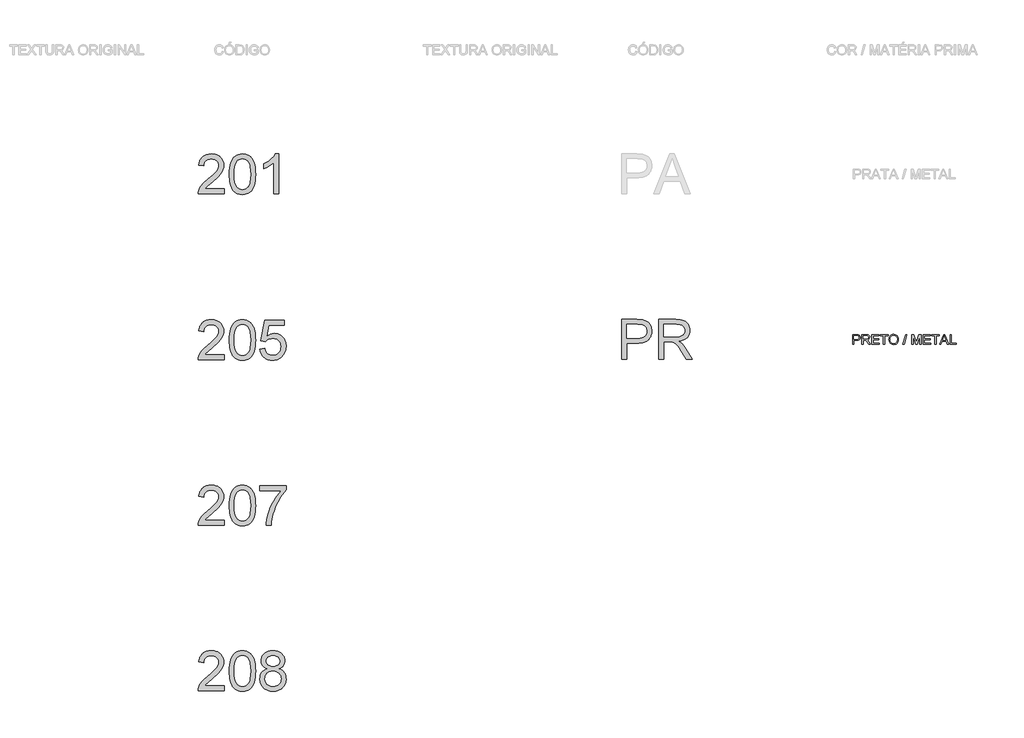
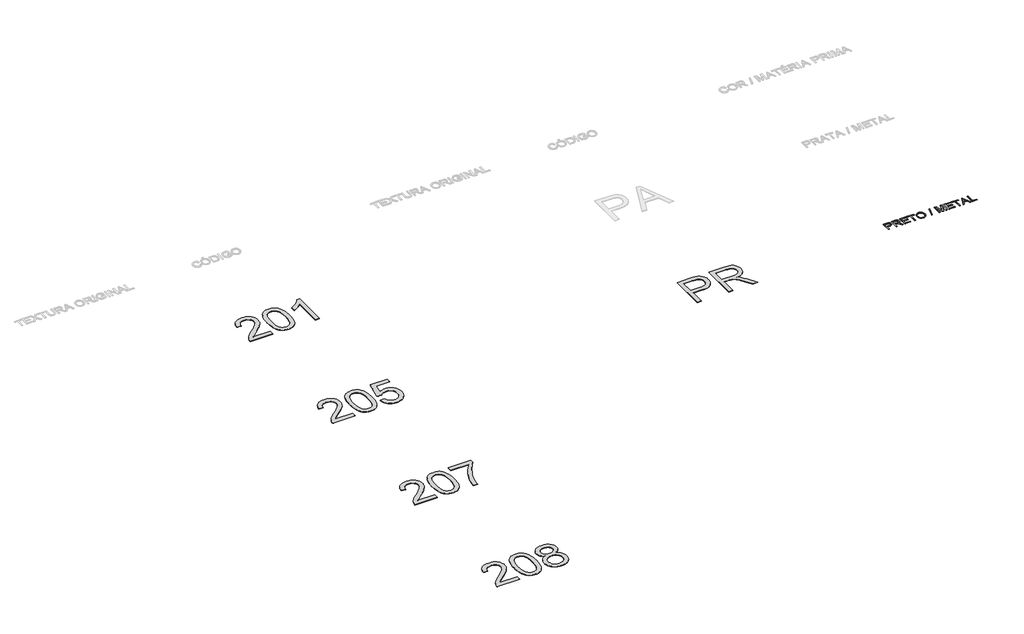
# One storey, part 15 of 19: 6 proxies.
"""IFC4 building model written with IfcOpenShell, lengths in millimetres."""

from ifc_helpers import new_model, si_unit, origin, origin_with_axes, place, context, project, spatial, polyline, outline, extrude, element, save

model = new_model("IFC4")

# Units and contexts
model_context = context("Model", 3, world=origin())
ifc_project = project(units=[si_unit("LENGTHUNIT", "METRE", prefix="MILLI")], contexts=[model_context])

# Site, building, storey
site = spatial("IfcSite", under=ifc_project)
building = spatial("IfcBuilding", under=site)
storey = spatial("IfcBuildingStorey", under=building, Name="Marelli - Linha ACTIVE - Planta Baixa", Elevation=0.0)

# Proxies
placement = place(None, origin())
element("IfcBuildingElementProxy", 1, Name="1200mm Arial", ObjectType="1200mm Arial", at=placement, inside=storey, context=model_context, shape_type="SweptSolid", body=[
    extrude(outline(polyline([(12375.3752953, -113980.5663201), (12375.3752953, -112775.0905983), (12822.1311902, -112775.0905983), (12926.1682184, -112777.9600778), (13002.246215, -112786.5685165), (13044.1755654, -112795.6092166), (13082.5548546, -112808.0160368), (13117.3840825, -112823.7889774), (13148.6632491, -112842.9280382), (13176.7234483, -112865.8286924), (13201.8957738, -112892.8864131), (13224.1802257, -112924.1012004), (13243.5768039, -112959.4730543), (13259.2853651, -112997.8339493), (13270.5057659, -113038.0158602), (13277.2380064, -113080.018787), (13279.4820866, -113123.8427297), (13273.4212307, -113197.842193), (13265.8451609, -113232.6208372), (13255.2386631, -113265.9187562), (13241.6017374, -113297.7359503), (13224.9343838, -113328.0724193), (13205.2366022, -113356.9281633), (13182.5083927, -113384.3031823), (13155.8254517, -113409.2731727), (13124.2634758, -113430.9138311), (13087.8224649, -113449.2251574), (13046.5024191, -113464.2071516), (13000.3033382, -113475.8598138), (12949.2252225, -113484.183144), (12893.2680718, -113489.1771421), (12832.4318861, -113490.8418081), (12526.0597605, -113490.8418081), (12526.0597605, -113980.5663201), (12375.3752953, -113980.5663201)]), holes=[polyline([(12526.0597605, -113340.1573429), (12841.2610539, -113340.1573429), (12913.733807, -113336.6992521), (12974.8757946, -113326.3249798), (13024.6870167, -113309.0345261), (13063.1674734, -113284.8278908), (13091.8806632, -113254.3488675), (13112.3900844, -113218.2412497), (13124.6957371, -113176.5050373), (13128.7976214, -113129.1402304), (13126.3787973, -113093.9707117), (13119.1223249, -113061.4499433), (13107.0282043, -113031.5779253), (13090.0964355, -113004.3546577), (13069.2283293, -112980.6630572), (13045.3251967, -112961.3860406), (13018.3870376, -112946.523608), (12988.413852, -112936.0757594), (12930.2884968, -112928.3502375), (12837.7293868, -112925.7750635), (12526.0597605, -112925.7750635), (12526.0597605, -113340.1573429)])]), origin_with_axes(), (0.0, 0.0, 1.0), 10.0),
    extrude(outline(polyline([(13486.6732263, -113980.5663201), (13486.6732263, -112775.0905983), (14006.1226035, -112775.0905983), (14080.6830868, -112777.1231463), (14145.7338206, -112783.2207904), (14201.2748049, -112793.3835305), (14247.3060395, -112807.6113666), (14286.5038661, -112826.9987478), (14321.5446261, -112852.6401229), (14352.4283196, -112884.5354918), (14379.1549466, -112922.6848547), (14400.7220286, -112965.0372694), (14416.1270871, -113009.5417938), (14425.3701222, -113056.1984278), (14428.4511339, -113105.0071715), (14423.3467713, -113166.9217113), (14408.0336832, -113223.7594796), (14382.5118698, -113275.5204763), (14346.781331, -113322.2047015), (14324.9728265, -113343.2705443), (14300.3822144, -113362.3222331), (14242.8546674, -113394.383149), (14174.19869, -113418.3874491), (14094.4142823, -113434.3351336), (14144.0783517, -113466.7823256), (14180.0572108, -113498.7880592), (14241.7878096, -113571.9965762), (14302.1940332, -113653.8871084), (14503.2047554, -113980.5663201), (14328.0929257, -113980.5663201), (14171.2280429, -113730.7008689), (14108.4673745, -113635.3458558), (14057.9203884, -113565.3011239), (14015.7978999, -113517.0717943), (13978.3107246, -113487.1629881), (13942.8101121, -113469.615017), (13906.647312, -113458.4681925), (13871.4042168, -113454.495067), (13819.2385499, -113453.1706918), (13637.3576915, -113453.1706918), (13637.3576915, -113980.5663201), (13486.6732263, -113980.5663201)]), holes=[polyline([(13637.3576915, -113302.4862266), (13974.6319047, -113302.4862266), (14071.495234, -113297.1519376), (14111.7875095, -113290.4840765), (14146.6535256, -113281.1490708), (14176.8750315, -113268.8802063), (14203.2337765, -113253.4107684), (14225.7297605, -113234.7407571), (14244.3629836, -113212.8701725), (14258.9770958, -113188.8750694), (14269.4157474, -113163.8315026), (14275.6789384, -113137.7394721), (14277.7666687, -113110.5989779), (14273.7843461, -113072.0633389), (14261.8373783, -113037.0961552), (14241.9257653, -113005.697427), (14214.0495071, -112977.867154), (14177.5648103, -112955.0768644), (14131.8278812, -112938.7980861), (14076.83872, -112929.0308192), (14012.5973266, -112925.7750635), (13637.3576915, -112925.7750635), (13637.3576915, -113302.4862266)])]), origin_with_axes(), (0.0, 0.0, 1.0), 10.0),
])
element("IfcBuildingElementProxy", 2, Name="1200mm Arial", ObjectType="1200mm Arial", at=placement, inside=storey, context=model_context, shape_type="SweptSolid", body=[
    extrude(outline(polyline([(365.0998072, -108829.8818548), (365.0998072, -108980.5663201), (-425.9936352, -108980.5663201), (-422.6826972, -108927.5177364), (-409.8068274, -108876.6764446), (-393.3808963, -108835.7771638), (-372.6507459, -108795.4848883), (-347.6163761, -108755.7996181), (-318.277787, -108716.7213531), (-282.869145, -108676.7233832), (-239.6246164, -108634.278998), (-129.6278999, -108542.0509818), (-40.1957869, -108465.1084625), (32.975942, -108397.6205105), (89.8872866, -108339.5871258), (130.5382471, -108291.0083083), (158.9939194, -108247.4510801), (179.3193997, -108204.482463), (191.5146878, -108162.1024572), (195.5797839, -108120.3110625), (191.7446141, -108080.9936743), (180.2391047, -108044.8584653), (161.0632557, -108011.9054356), (134.2170671, -107982.1345852), (101.1904609, -107957.4772944), (63.4733594, -107939.8649439), (21.0657624, -107929.2975336), (-26.03233, -107925.7750635), (-75.6504141, -107929.2147602), (-120.0261798, -107939.5338501), (-159.159627, -107956.7323334), (-193.0507558, -107980.81021), (-220.4671615, -108010.9581395), (-240.1764394, -108046.3667815), (-252.1785895, -108087.0361361), (-256.4736118, -108132.9662032), (-407.158077, -108114.130645), (-394.1994338, -108036.3419971), (-383.7400888, -108001.1310917), (-370.6273949, -107968.3757985), (-354.8613522, -107938.0761177), (-336.4419605, -107910.2320492), (-315.36922, -107884.843593), (-291.6431306, -107861.9107491), (-265.5212096, -107841.5622763), (-237.2609746, -107823.9269331), (-206.8624255, -107809.0047197), (-174.3255623, -107796.795636), (-102.8368936, -107780.5168577), (-22.7949685, -107775.0905983), (57.9643265, -107781.123863), (95.0123427, -107788.6654439), (129.8392713, -107799.2236572), (162.4451124, -107812.7985028), (192.8298659, -107829.3899808), (220.9935319, -107848.9980911), (246.9361104, -107871.6228338), (270.2161429, -107896.4824596), (290.3921711, -107922.7952193), (307.4641949, -107950.5611129), (321.4322144, -107979.7801404), (332.2962296, -108010.4523017), (340.0562404, -108042.577597), (344.7122469, -108076.1560261), (346.2642491, -108111.1875891), (344.590386, -108147.3779803), (339.5687968, -108183.2556719), (331.1994814, -108218.8206638), (319.4824398, -108254.072956), (303.8750462, -108289.6287508), (283.8346745, -108326.1042507), (230.454997, -108401.8143653), (193.6208122, -108443.798898), (145.3638915, -108492.2029715), (14.5818422, -108608.269741), (-158.7641539, -108753.2152471), (-196.3616938, -108791.4381863), (-226.7487466, -108829.8818548), (365.0998072, -108829.8818548)])), origin_with_axes(), (0.0, 0.0, 1.0), 10.0),
    extrude(outline(polyline([(515.7842725, -108387.5405438), (518.5525845, -108286.1798571), (526.8575205, -108194.5864374), (540.6990806, -108112.7602846), (560.0772647, -108040.7013988), (584.9092994, -107977.8211688), (615.1124112, -107923.5309833), (650.6866001, -107877.8308425), (691.6318662, -107840.7207462), (738.0861651, -107812.0075565), (790.1874527, -107791.4981353), (847.9357289, -107779.1924825), (911.3309937, -107775.0905983), (958.971712, -107777.5186194), (1004.1844093, -107784.8026829), (1046.9690853, -107796.9427888), (1087.3257402, -107813.938937), (1124.2794866, -107835.5060189), (1156.8554373, -107861.3589261), (1185.0535922, -107891.4976586), (1208.8739514, -107925.9222163), (1229.5121313, -107964.4946435), (1248.1637485, -108007.0769844), (1279.5072944, -108104.2714076), (1291.4818534, -108161.4310726), (1300.0351098, -108227.6958169), (1305.1670636, -108303.0656407), (1306.8777149, -108387.5405438), (1304.136994, -108488.2574371), (1295.9148314, -108579.3910043), (1282.2112271, -108660.9412456), (1263.0261811, -108732.9081609), (1238.3872844, -108795.8159821), (1208.3221284, -108850.188941), (1172.8307129, -108896.0270376), (1131.913038, -108933.3302719), (1085.4035567, -108962.2365997), (1033.1367223, -108982.8839766), (975.1125346, -108995.2724028), (911.3309937, -108999.4018782), (868.6566822, -108997.6084535), (828.3368156, -108992.2281793), (790.3713937, -108983.2610557), (754.7604165, -108970.7070826), (721.5038842, -108954.5662601), (690.6017966, -108934.8385881), (662.0541537, -108911.5240666), (635.8609557, -108884.6226957), (607.7179831, -108842.0265592), (583.3274068, -108793.8478134), (562.6892268, -108740.0864583), (545.8034433, -108680.742494), (532.670056, -108615.8159204), (523.2890652, -108545.3067375), (517.6604706, -108469.2149453), (515.7842725, -108387.5405438)]), holes=[polyline([(666.4687377, -108387.2462382), (670.8833216, -108518.2398197), (684.1270735, -108624.2726077), (694.0598873, -108667.9287043), (706.1999932, -108705.3446024), (720.547391, -108736.5203023), (737.1020808, -108761.4558037), (774.4788915, -108799.6327578), (815.9759805, -108826.9020107), (861.5933479, -108843.2635624), (911.3309937, -108848.717413), (961.0686394, -108843.2451683), (1006.6860068, -108826.8284343), (1048.1830959, -108799.4672109), (1085.5599066, -108761.1614981), (1102.1145964, -108736.1662158), (1116.4619942, -108704.9583263), (1128.6021, -108667.5378296), (1138.5349139, -108623.9047257), (1151.7786657, -108518.0006964), (1156.1932497, -108387.2462382), (1151.9258185, -108259.7199446), (1139.1235251, -108155.5541577), (1129.521805, -108112.2314542), (1117.7863694, -108074.7488774), (1103.9172181, -108043.1064273), (1087.9143514, -108017.3041039), (1051.16294, -107977.2601487), (1009.1876044, -107948.6573236), (961.9883444, -107931.4956285), (909.5651601, -107925.7750635), (860.0850317, -107930.8150468), (815.2402165, -107945.9349968), (775.0307145, -107971.1349135), (739.4565255, -108006.4147968), (722.3500128, -108034.9624397), (707.5243683, -108068.954736), (694.9795923, -108108.3916859), (684.7156846, -108153.2732893), (671.0304744, -108259.3704567), (666.4687377, -108387.2462382)])]), origin_with_axes(), (0.0, 0.0, 1.0), 10.0),
    extrude(outline(polyline([(2003.7933665, -108980.5663201), (1853.1089013, -108980.5663201), (1853.1089013, -108041.1428572), (1790.2010802, -108092.0209371), (1710.3706872, -108142.8254407), (1626.5671687, -108187.2287975), (1551.7399709, -108218.9034373), (1551.7399709, -108076.4595287), (1612.8911555, -108045.7965644), (1670.0876087, -108012.0801796), (1723.3293305, -107975.3103741), (1772.6163208, -107935.4871482), (1816.4770517, -107894.4499116), (1853.4399951, -107854.0380744), (1883.5051512, -107814.2516367), (1906.6725198, -107775.0905983), (2003.7933665, -107775.0905983), (2003.7933665, -108980.5663201)])), origin_with_axes(), (0.0, 0.0, 1.0), 10.0),
])
element("IfcBuildingElementProxy", 3, Name="1200mm Arial", ObjectType="1200mm Arial", at=placement, inside=storey, context=model_context, shape_type="SweptSolid", body=[
    extrude(outline(polyline([(365.0998072, -113838.133975), (365.0998072, -113988.8184403), (-425.9936352, -113988.8184403), (-422.6826972, -113935.7698566), (-409.8068274, -113884.9285648), (-393.3808963, -113844.029284), (-372.6507459, -113803.7370085), (-347.6163761, -113764.0517383), (-318.277787, -113724.9734733), (-282.869145, -113684.9755034), (-239.6246164, -113642.5311182), (-129.6278999, -113550.303102), (-40.1957869, -113473.3605827), (32.975942, -113405.8726307), (89.8872866, -113347.839246), (130.5382471, -113299.2604285), (158.9939194, -113255.7032003), (179.3193997, -113212.7345832), (191.5146878, -113170.3545774), (195.5797839, -113128.5631827), (191.7446141, -113089.2457945), (180.2391047, -113053.1105855), (161.0632557, -113020.1575558), (134.2170671, -112990.3867054), (101.1904609, -112965.7294146), (63.4733594, -112948.1170641), (21.0657624, -112937.5496538), (-26.03233, -112934.0271837), (-75.6504141, -112937.4668804), (-120.0261798, -112947.7859703), (-159.159627, -112964.9844536), (-193.0507558, -112989.0623302), (-220.4671615, -113019.2102597), (-240.1764394, -113054.6189017), (-252.1785895, -113095.2882563), (-256.4736118, -113141.2183234), (-407.158077, -113122.3827652), (-394.1994338, -113044.5941173), (-383.7400888, -113009.3832119), (-370.6273949, -112976.6279187), (-354.8613522, -112946.3282379), (-336.4419605, -112918.4841694), (-315.36922, -112893.0957132), (-291.6431306, -112870.1628693), (-265.5212096, -112849.8143965), (-237.2609746, -112832.1790533), (-206.8624255, -112817.2568399), (-174.3255623, -112805.0477562), (-102.8368936, -112788.7689779), (-22.7949685, -112783.3427185), (57.9643265, -112789.3759832), (95.0123427, -112796.9175641), (129.8392713, -112807.4757774), (162.4451124, -112821.050623), (192.8298659, -112837.642101), (220.9935319, -112857.2502113), (246.9361104, -112879.874954), (270.2161429, -112904.7345798), (290.3921711, -112931.0473395), (307.4641949, -112958.8132331), (321.4322144, -112988.0322606), (332.2962296, -113018.7044219), (340.0562404, -113050.8297172), (344.7122469, -113084.4081463), (346.2642491, -113119.4397093), (344.590386, -113155.6301005), (339.5687968, -113191.5077921), (331.1994814, -113227.072784), (319.4824398, -113262.3250762), (303.8750462, -113297.880871), (283.8346745, -113334.3563708), (230.454997, -113410.0664855), (193.6208122, -113452.0510182), (145.3638915, -113500.4550917), (14.5818422, -113616.5218611), (-158.7641539, -113761.4673672), (-196.3616938, -113799.6903065), (-226.7487466, -113838.133975), (365.0998072, -113838.133975)])), origin_with_axes(), (0.0, 0.0, 1.0), 10.0),
    extrude(outline(polyline([(515.7842725, -113395.792664), (518.5525845, -113294.4319773), (526.8575205, -113202.8385576), (540.6990806, -113121.0124048), (560.0772647, -113048.953519), (584.9092994, -112986.073289), (615.1124112, -112931.7831035), (650.6866001, -112886.0829627), (691.6318662, -112848.9728664), (738.0861651, -112820.2596767), (790.1874527, -112799.7502555), (847.9357289, -112787.4446027), (911.3309937, -112783.3427185), (958.971712, -112785.7707396), (1004.1844093, -112793.0548031), (1046.9690853, -112805.194909), (1087.3257402, -112822.1910572), (1124.2794866, -112843.7581391), (1156.8554373, -112869.6110463), (1185.0535922, -112899.7497788), (1208.8739514, -112934.1743365), (1229.5121313, -112972.7467637), (1248.1637485, -113015.3291046), (1279.5072944, -113112.5235278), (1291.4818534, -113169.6831928), (1300.0351098, -113235.9479371), (1305.1670636, -113311.3177609), (1306.8777149, -113395.792664), (1304.136994, -113496.5095573), (1295.9148314, -113587.6431245), (1282.2112271, -113669.1933658), (1263.0261811, -113741.1602811), (1238.3872844, -113804.0681023), (1208.3221284, -113858.4410612), (1172.8307129, -113904.2791578), (1131.913038, -113941.5823921), (1085.4035567, -113970.4887199), (1033.1367223, -113991.1360968), (975.1125346, -114003.524523), (911.3309937, -114007.6539984), (868.6566822, -114005.8605737), (828.3368156, -114000.4802995), (790.3713937, -113991.5131759), (754.7604165, -113978.9592028), (721.5038842, -113962.8183803), (690.6017966, -113943.0907083), (662.0541537, -113919.7761868), (635.8609557, -113892.8748159), (607.7179831, -113850.2786794), (583.3274068, -113802.0999336), (562.6892268, -113748.3385785), (545.8034433, -113688.9946142), (532.670056, -113624.0680406), (523.2890652, -113553.5588577), (517.6604706, -113477.4670655), (515.7842725, -113395.792664)]), holes=[polyline([(666.4687377, -113395.4983584), (670.8833216, -113526.4919399), (684.1270735, -113632.5247279), (694.0598873, -113676.1808245), (706.1999932, -113713.5967226), (720.547391, -113744.7724225), (737.1020808, -113769.7079239), (774.4788915, -113807.884878), (815.9759805, -113835.1541309), (861.5933479, -113851.5156826), (911.3309937, -113856.9695332), (961.0686394, -113851.4972885), (1006.6860068, -113835.0805545), (1048.1830959, -113807.7193311), (1085.5599066, -113769.4136183), (1102.1145964, -113744.418336), (1116.4619942, -113713.2104465), (1128.6021, -113675.7899498), (1138.5349139, -113632.1568459), (1151.7786657, -113526.2528166), (1156.1932497, -113395.4983584), (1151.9258185, -113267.9720648), (1139.1235251, -113163.8062779), (1129.521805, -113120.4835744), (1117.7863694, -113083.0009976), (1103.9172181, -113051.3585475), (1087.9143514, -113025.5562241), (1051.16294, -112985.5122689), (1009.1876044, -112956.9094438), (961.9883444, -112939.7477487), (909.5651601, -112934.0271837), (860.0850317, -112939.067167), (815.2402165, -112954.187117), (775.0307145, -112979.3870337), (739.4565255, -113014.666917), (722.3500128, -113043.2145599), (707.5243683, -113077.2068562), (694.9795923, -113116.6438061), (684.7156846, -113161.5254095), (671.0304744, -113267.6225769), (666.4687377, -113395.4983584)])]), origin_with_axes(), (0.0, 0.0, 1.0), 10.0),
    extrude(outline(polyline([(1438.726622, -113668.6139517), (1589.4110872, -113649.7783935), (1600.6682762, -113698.2192552), (1617.0758132, -113740.2405761), (1638.6336981, -113775.8423562), (1665.341931, -113805.0245955), (1697.1453295, -113827.7505057), (1733.9887113, -113843.9832988), (1775.8720764, -113853.7229746), (1822.7954249, -113856.9695332), (1880.1850162, -113852.4537817), (1930.8055787, -113838.9065272), (1974.6571125, -113816.3277698), (2011.7396176, -113784.7175093), (2041.2253596, -113745.6392444), (2062.2866038, -113700.6564734), (2074.9233503, -113649.7691965), (2079.1355992, -113592.9774135), (2075.1900648, -113539.3034304), (2063.3534616, -113491.5891356), (2043.6257896, -113449.8345291), (2016.0070488, -113414.039611), (1980.4052687, -113385.3264213), (1936.7284788, -113364.817), (1884.9766792, -113352.5113473), (1825.1498697, -113348.4094631), (1786.862551, -113350.0465379), (1752.0517173, -113354.9577626), (1720.7173683, -113363.143137), (1692.8595042, -113374.6026611), (1645.5866678, -113404.6954083), (1608.2466453, -113442.5872538), (1457.5621801, -113423.7516957), (1589.4110872, -112802.1782766), (2173.3133899, -112802.1782766), (2173.3133899, -112952.8627418), (1711.253604, -112952.8627418), (1646.8006784, -113284.8394543), (1699.9780208, -113246.7268796), (1754.4429502, -113219.503612), (1810.1954666, -113203.1696514), (1867.2355699, -113197.7249978), (1904.6744607, -113199.4126565), (1940.6188309, -113204.4756325), (1975.0686805, -113212.9139257), (2008.0240095, -113224.7275363), (2039.4848179, -113239.9164642), (2069.4511056, -113258.4807093), (2097.9228728, -113280.4202718), (2124.9001194, -113305.7351516), (2149.4907315, -113333.7033803), (2170.8025953, -113363.6029895), (2188.8357109, -113395.4339791), (2203.5900781, -113429.1963492), (2215.0656971, -113464.8900998), (2223.2625678, -113502.5152308), (2228.1806902, -113542.0717424), (2229.8200644, -113583.5596344), (2223.9155584, -113661.6241938), (2216.5349258, -113698.6147284), (2206.2020403, -113734.2440996), (2192.9169017, -113768.5123075), (2176.6795102, -113801.4193519), (2157.4898656, -113832.965233), (2135.347968, -113863.1499507), (2105.3471913, -113897.0180869), (2072.7344524, -113926.3704716), (2037.5097514, -113951.2071048), (1999.6730882, -113971.5279865), (1959.2244628, -113987.3331167), (1916.1638753, -113998.6224954), (1870.4913256, -114005.3961227), (1822.2068137, -114007.6539984), (1744.445757, -114001.8506599), (1708.3864237, -113994.5964869), (1674.2078871, -113984.4406445), (1641.9101472, -113971.383133), (1611.4932039, -113955.4239522), (1582.9570574, -113936.5631021), (1556.3017076, -113914.8005828), (1531.9640144, -113890.6422321), (1510.3808376, -113864.5938875), (1491.5521772, -113836.6555493), (1475.4780333, -113806.8272173), (1462.1584058, -113775.1088915), (1451.5932947, -113741.500572), (1438.726622, -113668.6139517)])), origin_with_axes(), (0.0, 0.0, 1.0), 10.0),
])
element("IfcBuildingElementProxy", 4, Name="1200mm Arial", ObjectType="1200mm Arial", at=placement, inside=storey, context=model_context, shape_type="SweptSolid", body=[
    extrude(outline(polyline([(365.0998072, -118838.133975), (365.0998072, -118988.8184403), (-425.9936352, -118988.8184403), (-422.6826972, -118935.7698566), (-409.8068274, -118884.9285648), (-393.3808963, -118844.029284), (-372.6507459, -118803.7370085), (-347.6163761, -118764.0517383), (-318.277787, -118724.9734733), (-282.869145, -118684.9755034), (-239.6246164, -118642.5311182), (-129.6278999, -118550.303102), (-40.1957869, -118473.3605827), (32.975942, -118405.8726307), (89.8872866, -118347.839246), (130.5382471, -118299.2604285), (158.9939194, -118255.7032003), (179.3193997, -118212.7345832), (191.5146878, -118170.3545774), (195.5797839, -118128.5631827), (191.7446141, -118089.2457945), (180.2391047, -118053.1105855), (161.0632557, -118020.1575558), (134.2170671, -117990.3867054), (101.1904609, -117965.7294146), (63.4733594, -117948.1170641), (21.0657624, -117937.5496538), (-26.03233, -117934.0271837), (-75.6504141, -117937.4668804), (-120.0261798, -117947.7859703), (-159.159627, -117964.9844536), (-193.0507558, -117989.0623302), (-220.4671615, -118019.2102597), (-240.1764394, -118054.6189017), (-252.1785895, -118095.2882563), (-256.4736118, -118141.2183234), (-407.158077, -118122.3827652), (-394.1994338, -118044.5941173), (-383.7400888, -118009.3832119), (-370.6273949, -117976.6279187), (-354.8613522, -117946.3282379), (-336.4419605, -117918.4841694), (-315.36922, -117893.0957132), (-291.6431306, -117870.1628693), (-265.5212096, -117849.8143965), (-237.2609746, -117832.1790533), (-206.8624255, -117817.2568399), (-174.3255623, -117805.0477562), (-102.8368936, -117788.7689779), (-22.7949685, -117783.3427185), (57.9643265, -117789.3759832), (95.0123427, -117796.9175641), (129.8392713, -117807.4757774), (162.4451124, -117821.050623), (192.8298659, -117837.642101), (220.9935319, -117857.2502113), (246.9361104, -117879.874954), (270.2161429, -117904.7345798), (290.3921711, -117931.0473395), (307.4641949, -117958.8132331), (321.4322144, -117988.0322606), (332.2962296, -118018.7044219), (340.0562404, -118050.8297172), (344.7122469, -118084.4081463), (346.2642491, -118119.4397093), (344.590386, -118155.6301005), (339.5687968, -118191.5077921), (331.1994814, -118227.072784), (319.4824398, -118262.3250762), (303.8750462, -118297.880871), (283.8346745, -118334.3563708), (230.454997, -118410.0664855), (193.6208122, -118452.0510182), (145.3638915, -118500.4550917), (14.5818422, -118616.5218611), (-158.7641539, -118761.4673672), (-196.3616938, -118799.6903065), (-226.7487466, -118838.133975), (365.0998072, -118838.133975)])), origin_with_axes(), (0.0, 0.0, 1.0), 10.0),
    extrude(outline(polyline([(515.7842725, -118395.792664), (518.5525845, -118294.4319773), (526.8575205, -118202.8385576), (540.6990806, -118121.0124048), (560.0772647, -118048.953519), (584.9092994, -117986.073289), (615.1124112, -117931.7831035), (650.6866001, -117886.0829627), (691.6318662, -117848.9728664), (738.0861651, -117820.2596767), (790.1874527, -117799.7502555), (847.9357289, -117787.4446027), (911.3309937, -117783.3427185), (958.971712, -117785.7707396), (1004.1844093, -117793.0548031), (1046.9690853, -117805.194909), (1087.3257402, -117822.1910572), (1124.2794866, -117843.7581391), (1156.8554373, -117869.6110463), (1185.0535922, -117899.7497788), (1208.8739514, -117934.1743365), (1229.5121313, -117972.7467637), (1248.1637485, -118015.3291046), (1279.5072944, -118112.5235278), (1291.4818534, -118169.6831928), (1300.0351098, -118235.9479371), (1305.1670636, -118311.3177609), (1306.8777149, -118395.792664), (1304.136994, -118496.5095573), (1295.9148314, -118587.6431245), (1282.2112271, -118669.1933658), (1263.0261811, -118741.1602811), (1238.3872844, -118804.0681023), (1208.3221284, -118858.4410612), (1172.8307129, -118904.2791578), (1131.913038, -118941.5823921), (1085.4035567, -118970.4887199), (1033.1367223, -118991.1360968), (975.1125346, -119003.524523), (911.3309937, -119007.6539984), (868.6566822, -119005.8605737), (828.3368156, -119000.4802995), (790.3713937, -118991.5131759), (754.7604165, -118978.9592028), (721.5038842, -118962.8183803), (690.6017966, -118943.0907083), (662.0541537, -118919.7761868), (635.8609557, -118892.8748159), (607.7179831, -118850.2786794), (583.3274068, -118802.0999336), (562.6892268, -118748.3385785), (545.8034433, -118688.9946142), (532.670056, -118624.0680406), (523.2890652, -118553.5588577), (517.6604706, -118477.4670655), (515.7842725, -118395.792664)]), holes=[polyline([(666.4687377, -118395.4983584), (670.8833216, -118526.4919399), (684.1270735, -118632.5247279), (694.0598873, -118676.1808245), (706.1999932, -118713.5967226), (720.547391, -118744.7724225), (737.1020808, -118769.7079239), (774.4788915, -118807.884878), (815.9759805, -118835.1541309), (861.5933479, -118851.5156826), (911.3309937, -118856.9695332), (961.0686394, -118851.4972885), (1006.6860068, -118835.0805545), (1048.1830959, -118807.7193311), (1085.5599066, -118769.4136183), (1102.1145964, -118744.418336), (1116.4619942, -118713.2104465), (1128.6021, -118675.7899498), (1138.5349139, -118632.1568459), (1151.7786657, -118526.2528166), (1156.1932497, -118395.4983584), (1151.9258185, -118267.9720648), (1139.1235251, -118163.8062779), (1129.521805, -118120.4835744), (1117.7863694, -118083.0009976), (1103.9172181, -118051.3585475), (1087.9143514, -118025.5562241), (1051.16294, -117985.5122689), (1009.1876044, -117956.9094438), (961.9883444, -117939.7477487), (909.5651601, -117934.0271837), (860.0850317, -117939.067167), (815.2402165, -117954.187117), (775.0307145, -117979.3870337), (739.4565255, -118014.666917), (722.3500128, -118043.2145599), (707.5243683, -118077.2068562), (694.9795923, -118116.6438061), (684.7156846, -118161.5254095), (671.0304744, -118267.6225769), (666.4687377, -118395.4983584)])]), origin_with_axes(), (0.0, 0.0, 1.0), 10.0),
    extrude(outline(polyline([(1438.726622, -117952.8627418), (1438.726622, -117802.1782766), (2229.8200644, -117802.1782766), (2229.8200644, -117924.0207934), (2173.3041929, -117990.5246611), (2117.0642329, -118066.7222194), (2061.1001843, -118152.6134682), (2005.4120473, -118248.1984076), (1953.0164542, -118349.3383651), (1906.9300372, -118451.8946683), (1867.1527965, -118555.8673172), (1833.684732, -118661.2563118), (1813.7455278, -118737.7941609), (1797.7794493, -118817.9004653), (1785.7864962, -118901.5752251), (1777.7666687, -118988.8184403), (1627.0822035, -118988.8184403), (1631.8186842, -118914.8189769), (1643.3793759, -118833.4986619), (1661.7642786, -118744.8574952), (1686.9733923, -118648.8954767), (1718.7124114, -118550.1651463), (1756.6870304, -118453.2190435), (1800.8972492, -118358.0571684), (1851.3430677, -118264.679521), (1905.7528148, -118175.8268221), (1961.8548191, -118094.2397926), (2019.6490805, -118019.9184325), (2079.1355992, -117952.8627418), (1438.726622, -117952.8627418)])), origin_with_axes(), (0.0, 0.0, 1.0), 10.0),
])
element("IfcBuildingElementProxy", 5, Name="1200mm Arial", ObjectType="1200mm Arial", at=placement, inside=storey, context=model_context, shape_type="SweptSolid", body=[
    extrude(outline(polyline([(365.0998072, -123838.133975), (365.0998072, -123988.8184403), (-425.9936352, -123988.8184403), (-422.6826972, -123935.7698566), (-409.8068274, -123884.9285648), (-393.3808963, -123844.029284), (-372.6507459, -123803.7370085), (-347.6163761, -123764.0517383), (-318.277787, -123724.9734733), (-282.869145, -123684.9755034), (-239.6246164, -123642.5311182), (-129.6278999, -123550.303102), (-40.1957869, -123473.3605827), (32.975942, -123405.8726307), (89.8872866, -123347.839246), (130.5382471, -123299.2604285), (158.9939194, -123255.7032003), (179.3193997, -123212.7345832), (191.5146878, -123170.3545774), (195.5797839, -123128.5631827), (191.7446141, -123089.2457945), (180.2391047, -123053.1105855), (161.0632557, -123020.1575558), (134.2170671, -122990.3867054), (101.1904609, -122965.7294146), (63.4733594, -122948.1170641), (21.0657624, -122937.5496538), (-26.03233, -122934.0271837), (-75.6504141, -122937.4668804), (-120.0261798, -122947.7859703), (-159.159627, -122964.9844536), (-193.0507558, -122989.0623302), (-220.4671615, -123019.2102597), (-240.1764394, -123054.6189017), (-252.1785895, -123095.2882563), (-256.4736118, -123141.2183234), (-407.158077, -123122.3827652), (-394.1994338, -123044.5941173), (-383.7400888, -123009.3832119), (-370.6273949, -122976.6279187), (-354.8613522, -122946.3282379), (-336.4419605, -122918.4841694), (-315.36922, -122893.0957132), (-291.6431306, -122870.1628693), (-265.5212096, -122849.8143965), (-237.2609746, -122832.1790533), (-206.8624255, -122817.2568399), (-174.3255623, -122805.0477562), (-102.8368936, -122788.7689779), (-22.7949685, -122783.3427185), (57.9643265, -122789.3759832), (95.0123427, -122796.9175641), (129.8392713, -122807.4757774), (162.4451124, -122821.050623), (192.8298659, -122837.642101), (220.9935319, -122857.2502113), (246.9361104, -122879.874954), (270.2161429, -122904.7345798), (290.3921711, -122931.0473395), (307.4641949, -122958.8132331), (321.4322144, -122988.0322606), (332.2962296, -123018.7044219), (340.0562404, -123050.8297172), (344.7122469, -123084.4081463), (346.2642491, -123119.4397093), (344.590386, -123155.6301005), (339.5687968, -123191.5077921), (331.1994814, -123227.072784), (319.4824398, -123262.3250762), (303.8750462, -123297.880871), (283.8346745, -123334.3563708), (230.454997, -123410.0664855), (193.6208122, -123452.0510182), (145.3638915, -123500.4550917), (14.5818422, -123616.5218611), (-158.7641539, -123761.4673672), (-196.3616938, -123799.6903065), (-226.7487466, -123838.133975), (365.0998072, -123838.133975)])), origin_with_axes(), (0.0, 0.0, 1.0), 10.0),
    extrude(outline(polyline([(515.7842725, -123395.792664), (518.5525845, -123294.4319773), (526.8575205, -123202.8385576), (540.6990806, -123121.0124048), (560.0772647, -123048.953519), (584.9092994, -122986.073289), (615.1124112, -122931.7831035), (650.6866001, -122886.0829627), (691.6318662, -122848.9728664), (738.0861651, -122820.2596767), (790.1874527, -122799.7502555), (847.9357289, -122787.4446027), (911.3309937, -122783.3427185), (958.971712, -122785.7707396), (1004.1844093, -122793.0548031), (1046.9690853, -122805.194909), (1087.3257402, -122822.1910572), (1124.2794866, -122843.7581391), (1156.8554373, -122869.6110463), (1185.0535922, -122899.7497788), (1208.8739514, -122934.1743365), (1229.5121313, -122972.7467637), (1248.1637485, -123015.3291046), (1279.5072944, -123112.5235278), (1291.4818534, -123169.6831928), (1300.0351098, -123235.9479371), (1305.1670636, -123311.3177609), (1306.8777149, -123395.792664), (1304.136994, -123496.5095573), (1295.9148314, -123587.6431245), (1282.2112271, -123669.1933658), (1263.0261811, -123741.1602811), (1238.3872844, -123804.0681023), (1208.3221284, -123858.4410612), (1172.8307129, -123904.2791578), (1131.913038, -123941.5823921), (1085.4035567, -123970.4887199), (1033.1367223, -123991.1360968), (975.1125346, -124003.524523), (911.3309937, -124007.6539984), (868.6566822, -124005.8605737), (828.3368156, -124000.4802995), (790.3713937, -123991.5131759), (754.7604165, -123978.9592028), (721.5038842, -123962.8183803), (690.6017966, -123943.0907083), (662.0541537, -123919.7761868), (635.8609557, -123892.8748159), (607.7179831, -123850.2786794), (583.3274068, -123802.0999336), (562.6892268, -123748.3385785), (545.8034433, -123688.9946142), (532.670056, -123624.0680406), (523.2890652, -123553.5588577), (517.6604706, -123477.4670655), (515.7842725, -123395.792664)]), holes=[polyline([(666.4687377, -123395.4983584), (670.8833216, -123526.4919399), (684.1270735, -123632.5247279), (694.0598873, -123676.1808245), (706.1999932, -123713.5967226), (720.547391, -123744.7724225), (737.1020808, -123769.7079239), (774.4788915, -123807.884878), (815.9759805, -123835.1541309), (861.5933479, -123851.5156826), (911.3309937, -123856.9695332), (961.0686394, -123851.4972885), (1006.6860068, -123835.0805545), (1048.1830959, -123807.7193311), (1085.5599066, -123769.4136183), (1102.1145964, -123744.418336), (1116.4619942, -123713.2104465), (1128.6021, -123675.7899498), (1138.5349139, -123632.1568459), (1151.7786657, -123526.2528166), (1156.1932497, -123395.4983584), (1151.9258185, -123267.9720648), (1139.1235251, -123163.8062779), (1129.521805, -123120.4835744), (1117.7863694, -123083.0009976), (1103.9172181, -123051.3585475), (1087.9143514, -123025.5562241), (1051.16294, -122985.5122689), (1009.1876044, -122956.9094438), (961.9883444, -122939.7477487), (909.5651601, -122934.0271837), (860.0850317, -122939.067167), (815.2402165, -122954.187117), (775.0307145, -122979.3870337), (739.4565255, -123014.666917), (722.3500128, -123043.2145599), (707.5243683, -123077.2068562), (694.9795923, -123116.6438061), (684.7156846, -123161.5254095), (671.0304744, -123267.6225769), (666.4687377, -123395.4983584)])]), origin_with_axes(), (0.0, 0.0, 1.0), 10.0),
    extrude(outline(polyline([(1658.2785967, -123324.8650154), (1614.9329006, -123306.7652212), (1577.6020751, -123285.1337599), (1546.2861203, -123259.9706314), (1520.9850361, -123231.2758358), (1501.4780933, -123199.3252845), (1487.5445627, -123164.3948891), (1479.1844444, -123126.4846495), (1476.3977383, -123085.5945657), (1482.4677912, -123024.1398784), (1490.0553573, -122995.3301197), (1500.6779499, -122967.7987509), (1514.335569, -122941.545772), (1531.0282145, -122916.571183), (1573.518585, -122870.4571749), (1598.8058736, -122850.0397242), (1626.1073162, -122832.3446002), (1655.4229127, -122817.371803), (1686.7526631, -122805.1213326), (1755.4546257, -122788.787372), (1832.213204, -122783.3427185), (1909.3396643, -122788.9161307), (1978.5566617, -122805.6363674), (2010.1991118, -122818.1765449), (2039.8641962, -122833.5034285), (2067.5519148, -122851.6170183), (2093.2622678, -122872.5173141), (2136.5251904, -122919.5326331), (2153.5213386, -122944.8613085), (2167.427278, -122971.4039944), (2178.2430087, -122999.1606909), (2185.9685306, -123028.1313981), (2190.6038437, -123058.3161158), (2192.1489481, -123089.7148441), (2189.3990302, -123129.160991), (2181.1492764, -123165.9767817), (2167.3996869, -123200.1622161), (2148.1502615, -123231.7172942), (2123.3090297, -123260.2189518), (2092.7840212, -123285.2441245), (2056.5752358, -123306.7928124), (2014.6826736, -123324.8650154), (2064.2087872, -123345.9354566), (2107.4257246, -123372.6528865), (2144.3334858, -123405.0173051), (2174.9320707, -123443.0287122), (2198.9455679, -123485.8409794), (2216.098066, -123532.607978), (2226.3895648, -123583.3297081), (2229.8200644, -123638.0061697), (2228.1186102, -123676.3670647), (2223.0142475, -123713.1644613), (2214.5069763, -123748.3983594), (2202.5967967, -123782.068759), (2187.2837087, -123814.1756601), (2168.5677122, -123844.7190628), (2146.4488072, -123873.6989669), (2120.9269938, -123901.1153726), (2092.6276713, -123926.085363), (2062.1762392, -123947.7260214), (2029.5726974, -123966.0373477), (1994.8170459, -123981.019342), (1957.9092847, -123992.6720042), (1918.8494139, -124000.9953343), (1877.6374334, -124005.9893324), (1834.2733432, -124007.6539984), (1790.909253, -124005.9824346), (1749.6972725, -124000.9677432), (1710.6374016, -123992.6099241), (1673.7296405, -123980.9089774), (1638.973989, -123965.864903), (1606.3704472, -123947.4777011), (1575.919015, -123925.7473715), (1547.6196925, -123900.6739142), (1522.0978791, -123873.1034579), (1499.9789742, -123843.8821312), (1481.2629777, -123813.009934), (1465.9498896, -123780.4868664), (1454.03971, -123746.3129283), (1445.5324389, -123710.4881198), (1440.4280762, -123673.0124408), (1438.726622, -123633.8858913), (1442.2950773, -123576.7170293), (1453.0004434, -123524.4042096), (1470.8427201, -123476.9474322), (1495.8219076, -123434.3466971), (1527.3861828, -123397.3745566), (1564.9837227, -123366.8035628), (1608.6145273, -123342.6337157), (1658.2785967, -123324.8650154)]), holes=[polyline([(1627.0822035, -123090.0091497), (1630.4207326, -123124.553269), (1640.4363199, -123155.7864504), (1657.1289654, -123183.7086938), (1680.4986692, -123208.3199993), (1710.2511255, -123228.4063562), (1746.0920289, -123242.753754), (1788.0213793, -123251.3621927), (1836.0391767, -123254.2316723), (1882.8705547, -123251.3805868), (1923.8893972, -123242.8273304), (1959.0957041, -123228.5719031), (1988.4894756, -123208.6143049), (2011.6660412, -123184.5180342), (2028.220731, -123157.8465896), (2038.1535449, -123128.5999709), (2041.4644829, -123096.7781784), (2038.0431803, -123063.714784), (2027.7792726, -123033.3921106), (2010.6727599, -123005.810158), (1986.723642, -122980.9689263), (1956.667683, -122960.4319139), (1921.2406468, -122945.7626193), (1880.4425336, -122936.9610426), (1834.2733432, -122934.0271837), (1787.7454678, -122936.8966633), (1746.7542165, -122945.5051019), (1711.2995892, -122959.8524998), (1681.381586, -122979.9388567), (1657.6256061, -123004.0351274), (1640.6570491, -123030.4122664), (1630.4759149, -123059.0702739), (1627.0822035, -123090.0091497)]), polyline([(1589.4110872, -123628.5883906), (1590.9837827, -123657.6418712), (1595.7018693, -123686.2354992), (1614.5742157, -123742.0431979), (1629.574604, -123767.9328933), (1649.4126406, -123790.7139859), (1674.0883254, -123810.3864756), (1703.6016585, -123826.9503624), (1735.7913331, -123840.0837496), (1768.4960424, -123849.4647405), (1801.7157866, -123855.093335), (1835.4505656, -123856.9695332), (1889.933889, -123853.0239988), (1938.0160658, -123841.1873956), (1979.6970959, -123821.4597236), (2014.9769792, -123793.8409828), (2043.0463754, -123760.133795), (2063.0959442, -123722.140782), (2075.1256854, -123679.8619437), (2079.1355992, -123633.2972801), (2074.9969267, -123585.9876555), (2062.5809094, -123542.9454621), (2041.8875472, -123504.1706998), (2012.91684, -123469.6633687), (1976.6804635, -123441.336455), (1934.1900931, -123421.1029453), (1885.4457287, -123408.9628395), (1830.4473704, -123404.9161375), (1776.7641903, -123408.9076572), (1729.3166099, -123420.8822161), (1688.1046294, -123440.8398144), (1653.1282487, -123468.7804519), (1625.2519906, -123502.7175659), (1605.3403776, -123540.6645937), (1593.3934098, -123582.6215353), (1589.4110872, -123628.5883906)])]), origin_with_axes(), (0.0, 0.0, 1.0), 10.0),
])
element("IfcBuildingElementProxy", 6, Name="300mm Arial", ObjectType="300mm Arial", at=placement, inside=storey, context=model_context, shape_type="SweptSolid", body=[
    extrude(outline(polyline([(19347.979667, -113530.5663201), (19347.979667, -113229.1973896), (19459.6686407, -113229.1973896), (19504.6973969, -113232.0668692), (19524.7745568, -113237.4287493), (19541.3016554, -113246.1567496), (19554.6097866, -113258.6463433), (19565.0300441, -113275.2930036), (19571.7622846, -113294.9287051), (19574.0063648, -113316.3854225), (19572.4911508, -113334.8852883), (19567.9455089, -113351.9044291), (19560.3694391, -113367.4428449), (19549.7629413, -113381.5005356), (19535.2017121, -113393.1531978), (19515.7614479, -113401.476528), (19491.4421488, -113406.470526), (19462.2438147, -113408.1351921), (19385.6507833, -113408.1351921), (19385.6507833, -113530.5663201), (19347.979667, -113530.5663201)]), holes=[polyline([(19385.6507833, -113370.4640758), (19464.4511066, -113370.4640758), (19497.8547918, -113367.005985), (19519.9277115, -113356.6317128), (19532.2333643, -113339.9850525), (19536.3352485, -113317.7097977), (19533.9164244, -113300.7872259), (19526.659952, -113286.5134045), (19515.4671423, -113275.7712502), (19501.2393062, -113269.4436799), (19463.5681899, -113266.8685059), (19385.6507833, -113266.8685059), (19385.6507833, -113370.4640758)])]), origin_with_axes(), (0.0, 0.0, 1.0), 10.0),
    extrude(outline(polyline([(19625.8041497, -113530.5663201), (19625.8041497, -113229.1973896), (19755.666494, -113229.1973896), (19790.5692983, -113231.2299376), (19815.962353, -113237.3275817), (19834.5219997, -113248.5847708), (19848.9245798, -113266.0959537), (19858.1676149, -113287.8101885), (19861.2486266, -113311.6765329), (19856.144264, -113341.36461), (19840.8311759, -113365.9759154), (19829.2313967, -113376.0052983), (19814.84951, -113384.0205273), (19777.7394137, -113394.0085235), (19799.1501459, -113410.1217548), (19829.6843515, -113448.8965171), (19879.937032, -113530.5663201), (19836.1590746, -113530.5663201), (19796.9428539, -113468.0999573), (19768.6159403, -113426.750021), (19748.7135243, -113407.2154871), (19730.7976712, -113400.0417882), (19708.9454806, -113398.717413), (19663.475266, -113398.717413), (19663.475266, -113530.5663201), (19625.8041497, -113530.5663201)]), holes=[polyline([(19663.475266, -113361.0462967), (19747.7938193, -113361.0462967), (19772.0096517, -113359.7127245), (19790.7992246, -113355.7120078), (19804.9442873, -113348.7774322), (19815.226589, -113338.6422832), (19821.48978, -113326.3826157), (19823.5775103, -113313.0744845), (19819.5951877, -113294.6987789), (19807.6482199, -113279.8915286), (19787.0928135, -113270.1242616), (19757.2851748, -113266.8685059), (19663.475266, -113266.8685059), (19663.475266, -113361.0462967)])]), origin_with_axes(), (0.0, 0.0, 1.0), 10.0),
    extrude(outline(polyline([(19927.1730802, -113530.5663201), (19927.1730802, -113229.1973896), (20143.7819989, -113229.1973896), (20143.7819989, -113266.8685059), (19964.8441965, -113266.8685059), (19964.8441965, -113356.3374072), (20134.3642199, -113356.3374072), (20134.3642199, -113394.0085235), (19964.8441965, -113394.0085235), (19964.8441965, -113492.8952038), (20148.4908885, -113492.8952038), (20148.4908885, -113530.5663201), (19927.1730802, -113530.5663201)])), origin_with_axes(), (0.0, 0.0, 1.0), 10.0),
    extrude(outline(polyline([(20280.3397955, -113530.5663201), (20280.3397955, -113266.8685059), (20181.4531152, -113266.8685059), (20181.4531152, -113229.1973896), (20416.8975922, -113229.1973896), (20416.8975922, -113266.8685059), (20318.0109119, -113266.8685059), (20318.0109119, -113530.5663201), (20280.3397955, -113530.5663201)])), origin_with_axes(), (0.0, 0.0, 1.0), 10.0),
    extrude(outline(polyline([(20445.1509294, -113383.8549804), (20447.661724, -113348.5061192), (20455.1941079, -113317.213157), (20467.7480809, -113289.9760937), (20485.3236433, -113266.7949295), (20506.8677326, -113248.2858666), (20531.3272868, -113235.0651074), (20558.7023057, -113227.1326519), (20588.9927895, -113224.4885001), (20628.5217099, -113229.454907), (20663.9671401, -113244.3541278), (20693.3976997, -113268.1376988), (20714.8820082, -113299.7571563), (20728.0153955, -113337.68579), (20732.3931912, -113380.3968896), (20727.7854692, -113423.6782064), (20713.9623033, -113462.140269), (20691.6870485, -113493.8149088), (20661.7230599, -113516.7339571), (20626.5811324, -113530.6398965), (20588.7720603, -113535.2752096), (20548.6361346, -113530.1524528), (20512.9883693, -113514.7841825), (20483.6313861, -113490.5591531), (20462.3678068, -113458.8661192), (20449.4551487, -113422.3998164), (20445.1509294, -113383.8549804)]), holes=[polyline([(20482.8220457, -113384.2228624), (20484.7051417, -113409.1974513), (20490.3544295, -113431.3669401), (20499.7699094, -113450.7313286), (20512.9515811, -113467.2906169), (20528.9751412, -113480.5527628), (20546.9162863, -113490.0257242), (20566.7750163, -113495.709501), (20588.5513311, -113497.6040933), (20610.7001265, -113495.6911069), (20630.7933812, -113489.9521478), (20648.8310953, -113480.3872159), (20664.8132687, -113466.9963113), (20677.8983714, -113450.0875351), (20687.2448734, -113429.9689885), (20692.8527745, -113406.6406715), (20694.7220749, -113380.102584), (20691.5215016, -113346.7540812), (20681.9197815, -113317.9305269), (20666.165235, -113294.358488), (20644.5061826, -113276.7645316), (20618.3773639, -113265.8108452), (20589.2135187, -113262.1596164), (20568.1936612, -113263.9185522), (20548.6913169, -113269.1953595), (20530.7064859, -113277.9900385), (20514.2391681, -113290.302589), (20500.494177, -113306.7262208), (20490.6763263, -113327.8541437), (20484.7856158, -113353.6863575), (20482.8220457, -113384.2228624)])]), origin_with_axes(), (0.0, 0.0, 1.0), 10.0),
    extrude(outline(polyline([(20868.9509878, -113530.5663201), (20953.7109995, -113229.1973896), (20987.7032959, -113229.1973896), (20902.9432842, -113530.5663201), (20868.9509878, -113530.5663201)])), origin_with_axes(), (0.0, 0.0, 1.0), 10.0),
    extrude(outline(polyline([(21137.3576915, -113530.5663201), (21137.3576915, -113229.1973896), (21202.1784991, -113229.1973896), (21263.8355215, -113441.6124536), (21276.2699329, -113485.9790223), (21289.7344139, -113437.9336337), (21350.3613667, -113229.1973896), (21415.1821743, -113229.1973896), (21415.1821743, -113530.5663201), (21377.511058, -113530.5663201), (21377.511058, -113266.8685059), (21301.8009434, -113530.5663201), (21250.7389224, -113530.5663201), (21175.0288078, -113266.8685059), (21175.0288078, -113530.5663201), (21137.3576915, -113530.5663201)])), origin_with_axes(), (0.0, 0.0, 1.0), 10.0),
    extrude(outline(polyline([(21481.1066278, -113530.5663201), (21481.1066278, -113229.1973896), (21697.7155466, -113229.1973896), (21697.7155466, -113266.8685059), (21518.7777441, -113266.8685059), (21518.7777441, -113356.3374072), (21688.2977675, -113356.3374072), (21688.2977675, -113394.0085235), (21518.7777441, -113394.0085235), (21518.7777441, -113492.8952038), (21702.4244361, -113492.8952038), (21702.4244361, -113530.5663201), (21481.1066278, -113530.5663201)])), origin_with_axes(), (0.0, 0.0, 1.0), 10.0),
    extrude(outline(polyline([(21834.2733432, -113530.5663201), (21834.2733432, -113266.8685059), (21735.3866629, -113266.8685059), (21735.3866629, -113229.1973896), (21970.8311398, -113229.1973896), (21970.8311398, -113266.8685059), (21871.9444595, -113266.8685059), (21871.9444595, -113530.5663201), (21834.2733432, -113530.5663201)])), origin_with_axes(), (0.0, 0.0, 1.0), 10.0),
    extrude(outline(polyline([(21978.1152033, -113530.5663201), (22098.4126157, -113229.1973896), (22130.4919257, -113229.1973896), (22250.7893381, -113530.5663201), (22210.9845062, -113530.5663201), (22176.4771751, -113436.3885293), (22052.3537899, -113436.3885293), (22017.9200352, -113530.5663201), (21978.1152033, -113530.5663201)]), holes=[polyline([(22066.1861529, -113398.717413), (22162.7183885, -113398.717413), (22135.5686972, -113324.6259792), (22114.4522707, -113266.8685059), (22095.6902889, -113318.1512561), (22066.1861529, -113398.717413)])]), origin_with_axes(), (0.0, 0.0, 1.0), 10.0),
    extrude(outline(polyline([(22291.0356284, -113530.5663201), (22291.0356284, -113229.1973896), (22328.7067447, -113229.1973896), (22328.7067447, -113492.8952038), (22479.3912099, -113492.8952038), (22479.3912099, -113530.5663201), (22291.0356284, -113530.5663201)])), origin_with_axes(), (0.0, 0.0, 1.0), 10.0),
])

save(model, "model.ifc")
